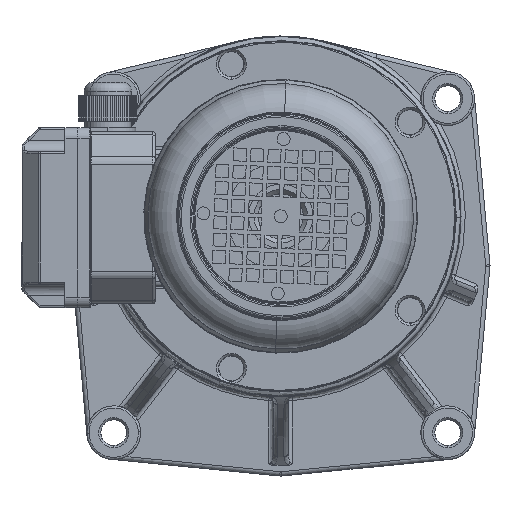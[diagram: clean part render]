
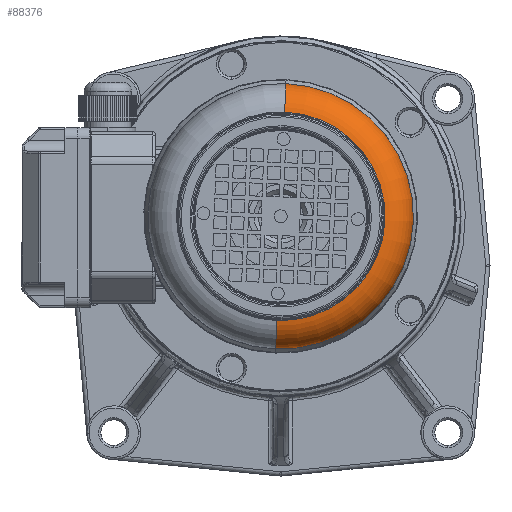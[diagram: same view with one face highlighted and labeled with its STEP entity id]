
A CAD part, front view. The second image highlights one B-rep face of the part: STEP entity #88376.
In plain terms, the highlighted toroidal (fillet/blend) face has major radius 46.75 mm and minor radius 15 mm.
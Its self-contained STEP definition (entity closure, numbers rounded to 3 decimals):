
#756 = CARTESIAN_POINT ( 'NONE',  ( 11407.538, -26592.948, 0. ) ) ;
#3367 = CARTESIAN_POINT ( 'NONE',  ( 11392.652, -26592.948, 61.75 ) ) ;
#5187 = AXIS2_PLACEMENT_3D ( 'NONE', #101971, #15604, #9428 ) ;
#6010 = ORIENTED_EDGE ( 'NONE', *, *, #32727, .T. ) ;
#9428 = DIRECTION ( 'NONE',  ( 0., 0., 1. ) ) ;
#10467 = EDGE_LOOP ( 'NONE', ( #6010, #44688, #68064, #23895 ) ) ;
#11306 = CARTESIAN_POINT ( 'NONE',  ( 11407.538, -26592.948, -48.591 ) ) ;
#12324 = DIRECTION ( 'NONE',  ( 0., 0., 1. ) ) ;
#12839 = CARTESIAN_POINT ( 'NONE',  ( 11392.652, -26592.948, 0. ) ) ;
#13847 = CIRCLE ( 'NONE', #17164, 61.75 ) ;
#15604 = DIRECTION ( 'NONE',  ( -1., 0., 0. ) ) ;
#16171 = DIRECTION ( 'NONE',  ( 0., 0., 1. ) ) ;
#17164 = AXIS2_PLACEMENT_3D ( 'NONE', #12839, #37589, #12324 ) ;
#21098 = CIRCLE ( 'NONE', #95341, 48.591 ) ;
#23895 = ORIENTED_EDGE ( 'NONE', *, *, #93187, .F. ) ;
#28232 = TOROIDAL_SURFACE ( 'NONE', #5187, 46.75, 15. ) ;
#32727 = EDGE_CURVE ( 'NONE', #89551, #70649, #21098, .T. ) ;
#33716 = CARTESIAN_POINT ( 'NONE',  ( 11392.652, -26592.948, -46.75 ) ) ;
#34959 = VERTEX_POINT ( 'NONE', #46974 ) ;
#37589 = DIRECTION ( 'NONE',  ( -1., 0., 0. ) ) ;
#44688 = ORIENTED_EDGE ( 'NONE', *, *, #78549, .T. ) ;
#45074 = CIRCLE ( 'NONE', #56611, 15. ) ;
#46974 = CARTESIAN_POINT ( 'NONE',  ( 11392.652, -26592.948, -61.75 ) ) ;
#48262 = DIRECTION ( 'NONE',  ( 0., -1., 0. ) ) ;
#53487 = EDGE_CURVE ( 'NONE', #54678, #34959, #13847, .T. ) ;
#54678 = VERTEX_POINT ( 'NONE', #3367 ) ;
#56611 = AXIS2_PLACEMENT_3D ( 'NONE', #102048, #48262, #64802 ) ;
#63818 = DIRECTION ( 'NONE',  ( -1., 0., 0. ) ) ;
#64802 = DIRECTION ( 'NONE',  ( 0., 0., -1. ) ) ;
#68064 = ORIENTED_EDGE ( 'NONE', *, *, #53487, .F. ) ;
#70649 = VERTEX_POINT ( 'NONE', #11306 ) ;
#73027 = CARTESIAN_POINT ( 'NONE',  ( 11407.538, -26592.948, 48.591 ) ) ;
#78549 = EDGE_CURVE ( 'NONE', #70649, #34959, #81963, .T. ) ;
#81963 = CIRCLE ( 'NONE', #101806, 15. ) ;
#88376 = ADVANCED_FACE ( 'NONE', ( #95214 ), #28232, .T. ) ;
#89551 = VERTEX_POINT ( 'NONE', #73027 ) ;
#93187 = EDGE_CURVE ( 'NONE', #89551, #54678, #45074, .T. ) ;
#95214 = FACE_OUTER_BOUND ( 'NONE', #10467, .T. ) ;
#95335 = DIRECTION ( 'NONE',  ( 0., 0., 1. ) ) ;
#95341 = AXIS2_PLACEMENT_3D ( 'NONE', #756, #63818, #95335 ) ;
#96814 = DIRECTION ( 'NONE',  ( 0., 1., 0. ) ) ;
#101806 = AXIS2_PLACEMENT_3D ( 'NONE', #33716, #96814, #16171 ) ;
#101971 = CARTESIAN_POINT ( 'NONE',  ( 11392.652, -26592.948, 0. ) ) ;
#102048 = CARTESIAN_POINT ( 'NONE',  ( 11392.652, -26592.948, 46.75 ) ) ;
